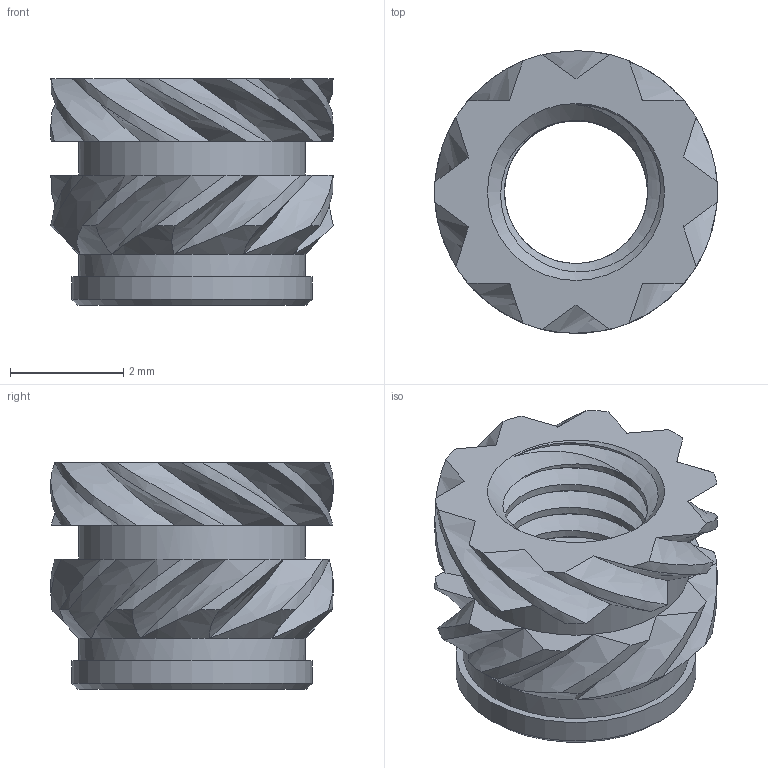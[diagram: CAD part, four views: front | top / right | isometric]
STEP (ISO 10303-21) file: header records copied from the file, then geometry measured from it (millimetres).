
FILE_DESCRIPTION(/* description */ (''),/* implementation_level */ '2;1');
FILE_NAME(/* name */ 'M3_VORON.step',/* time_stamp */ '2023-05-16T15:23:29+02:00',/* author */ (''),/* organization */ (''),/* preprocessor_version */ 'ST-DEVELOPER v19.2',/* originating_system */ 'Autodesk Translation Framework v12.4.0.73',/* authorisation */ '');
FILE_SCHEMA (('AUTOMOTIVE_DESIGN { 1 0 10303 214 3 1 1 }'));
Length unit declared in the file: millimetre
Products named in the file (1): Insert_M3_VORON
Bounding box: 5 x 5 x 4 mm (x, y, z)
Volume: 35.6 mm3; surface area: 159.6 mm2
Topology: 1 solids, 1 shells, 118 faces, 285 edges, 170 vertices
Faces by surface type: bspline 42, cylinder 40, plane 23, cone 13
Full cylindrical faces by diameter (mm): 2.529 x3, 3.086 x2, 4 x2, 4.25 x1
Entity records: 5552 total; most frequent: CARTESIAN_POINT 3195, ORIENTED_EDGE 570, DIRECTION 343, EDGE_CURVE 285, B_SPLINE_CURVE_WITH_KNOTS 180, VERTEX_POINT 170, AXIS2_PLACEMENT_3D 161, EDGE_LOOP 121
